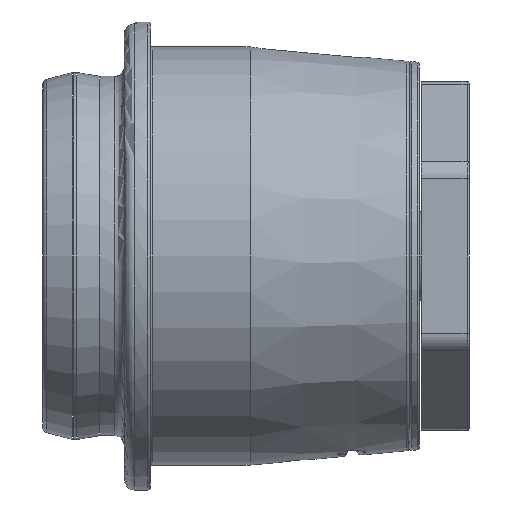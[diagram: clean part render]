
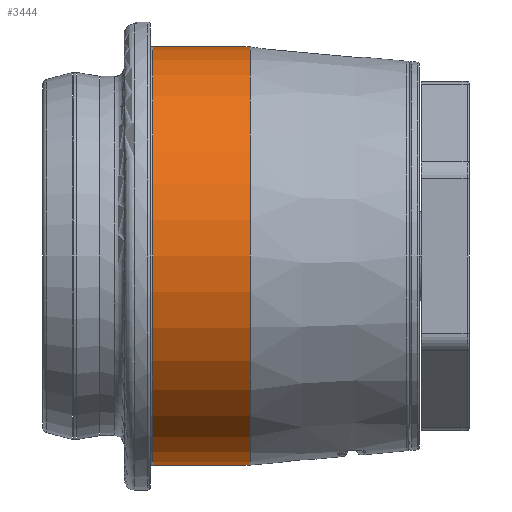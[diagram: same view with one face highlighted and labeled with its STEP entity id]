
A CAD part, left-side view. The second image highlights one B-rep face of the part: STEP entity #3444.
In plain terms, the highlighted cylindrical face has radius 20.95 mm (diameter 41.9 mm), a partial arc.
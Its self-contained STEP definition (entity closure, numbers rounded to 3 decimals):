
#337=CARTESIAN_POINT('',(0.,11.65,0.));
#338=DIRECTION('',(0.,1.,0.));
#339=DIRECTION('',(0.,0.,-1.));
#340=AXIS2_PLACEMENT_3D('',#337,#338,#339);
#377=DIRECTION('',(0.,-1.,0.));
#378=VECTOR('',#377,9.75);
#379=CARTESIAN_POINT('',(0.,11.65,-20.95));
#380=LINE('',#379,#378);
#381=DIRECTION('',(0.,-1.,0.));
#382=VECTOR('',#381,9.75);
#383=CARTESIAN_POINT('',(0.,11.65,20.95));
#384=LINE('',#383,#382);
#560=CARTESIAN_POINT('',(0.,1.9,0.));
#561=DIRECTION('',(0.,-1.,0.));
#562=DIRECTION('',(0.,0.,1.));
#563=AXIS2_PLACEMENT_3D('',#560,#561,#562);
#2824=CARTESIAN_POINT('',(0.,1.9,20.95));
#2825=CARTESIAN_POINT('',(0.,1.9,-20.95));
#2826=VERTEX_POINT('',#2824);
#2827=VERTEX_POINT('',#2825);
#2986=CARTESIAN_POINT('',(0.,11.65,20.95));
#2987=CARTESIAN_POINT('',(0.,11.65,-20.95));
#2988=VERTEX_POINT('',#2986);
#2989=VERTEX_POINT('',#2987);
#3429=CARTESIAN_POINT('',(0.,24.49,0.));
#3430=DIRECTION('',(0.,-1.,0.));
#3431=DIRECTION('',(0.,0.,1.));
#3432=AXIS2_PLACEMENT_3D('',#3429,#3430,#3431);
#3433=CYLINDRICAL_SURFACE('',#3432,20.95);
#3435=ORIENTED_EDGE('',*,*,#3434,.T.);
#3437=ORIENTED_EDGE('',*,*,#3436,.T.);
#3439=ORIENTED_EDGE('',*,*,#3438,.T.);
#3441=ORIENTED_EDGE('',*,*,#3440,.F.);
#3442=EDGE_LOOP('',(#3435,#3437,#3439,#3441));
#3443=FACE_OUTER_BOUND('',#3442,.F.);
#341=CIRCLE('',#340,20.95);
#564=CIRCLE('',#563,20.95);
#3434=EDGE_CURVE('',#2989,#2988,#341,.T.);
#3436=EDGE_CURVE('',#2988,#2826,#384,.T.);
#3438=EDGE_CURVE('',#2826,#2827,#564,.T.);
#3440=EDGE_CURVE('',#2989,#2827,#380,.T.);
#3444=ADVANCED_FACE('',(#3443),#3433,.T.);
